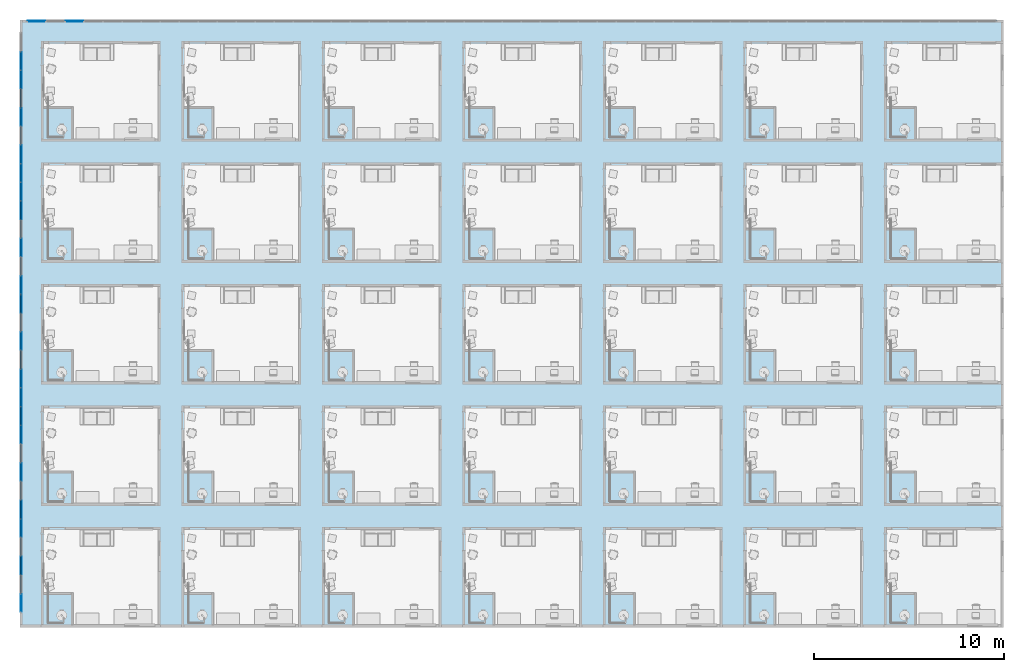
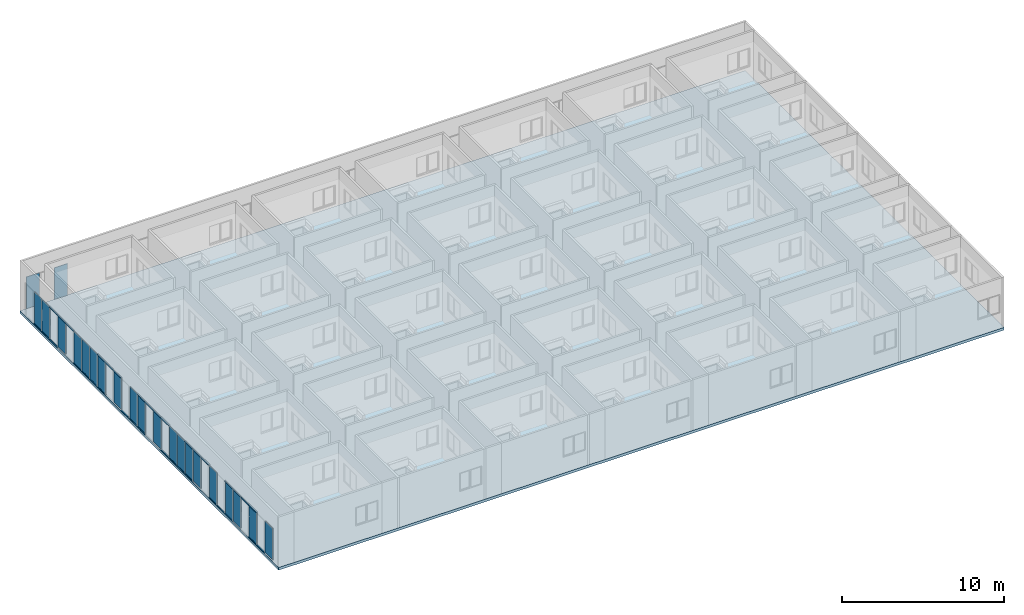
# One storey, part 5 of 72: 36 members, 22 plates, 1 slab, 2 elements without a shape of their own.
"""IFC4 building model written with IfcOpenShell, lengths in centimetres."""

from ifc_helpers import new_model, entity, si_unit, converted_unit, derived_unit, direction, frame, origin, place, context, subcontext, project, spatial, indexed_curve, outline, extrude, source, transform, mapped, material, type_object, type_shapes, element, aggregate, save


model = new_model("IFC4")

# Units and contexts
model_context = context("Model", 3, precision=0.001, world=origin(), true_north=direction((6.123233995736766e-17, 1.0)))
body_context = subcontext(model_context, "Body", "Model", "MODEL_VIEW")
ifc_project = project(units=[si_unit("LENGTHUNIT", "METRE", prefix="CENTI"), si_unit("AREAUNIT", "SQUARE_METRE"), si_unit("VOLUMEUNIT", "CUBIC_METRE"), derived_unit("THERMALTRANSMITTANCEUNIT", [(si_unit("MASSUNIT", "GRAM", prefix="KILO"), 1), (si_unit("THERMODYNAMICTEMPERATUREUNIT", "KELVIN"), -1), (si_unit("TIMEUNIT", "SECOND"), -3)]), converted_unit("PLANEANGLEUNIT", "DEGREE", entity("IfcPlaneAngleMeasure", 0.017453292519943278), si_unit("PLANEANGLEUNIT", "RADIAN"), dimensions=[0, 0, 0, 0, 0, 0, 0]), derived_unit("MASSDENSITYUNIT", [(si_unit("MASSUNIT", "GRAM", prefix="KILO"), 1), (si_unit("LENGTHUNIT", "METRE"), -3)]), derived_unit("VAPORPERMEABILITYUNIT", [(si_unit("LENGTHUNIT", "METRE"), -1), (si_unit("TIMEUNIT", "SECOND"), 1)]), derived_unit("USERDEFINED", [(si_unit("MASSUNIT", "GRAM", prefix="KILO"), 1), (si_unit("TIMEUNIT", "SECOND"), -3), (si_unit("LENGTHUNIT", "METRE"), 3), (si_unit("ELECTRICCURRENTUNIT", "AMPERE"), -2)]), derived_unit("SPECIFICHEATCAPACITYUNIT", [(si_unit("THERMODYNAMICTEMPERATUREUNIT", "KELVIN"), -1), (si_unit("LENGTHUNIT", "METRE"), 2), (si_unit("TIMEUNIT", "SECOND"), -2)]), derived_unit("THERMALCONDUCTANCEUNIT", [(si_unit("MASSUNIT", "GRAM", prefix="KILO"), 1), (si_unit("THERMODYNAMICTEMPERATUREUNIT", "KELVIN"), -1), (si_unit("TIMEUNIT", "SECOND"), -3), (si_unit("LENGTHUNIT", "METRE"), 1)]), si_unit("PRESSUREUNIT", "PASCAL"), derived_unit("MODULUSOFELASTICITYUNIT", [(si_unit("MASSUNIT", "GRAM", prefix="KILO"), 1), (si_unit("LENGTHUNIT", "METRE"), -1), (si_unit("TIMEUNIT", "SECOND"), -2)]), derived_unit("THERMALEXPANSIONCOEFFICIENTUNIT", [(si_unit("THERMODYNAMICTEMPERATUREUNIT", "KELVIN"), -1)])], contexts=[model_context])

# Site, building, storey
site_placement = place(None, origin())
site = spatial("IfcSite", under=ifc_project, at=site_placement, Name="Default", CompositionType="ELEMENT")
building_placement = place(site_placement, origin())
building = spatial("IfcBuilding", under=site, at=building_placement, Name="IDS Escape Game Building", CompositionType="ELEMENT")
storey_placement = place(building_placement, frame((0.0, 0.0, 800.0)))
storey = spatial("IfcBuildingStorey", under=building, at=storey_placement, Name="02_Second Floor", CompositionType="ELEMENT", Elevation=800.0)

# Curtain wall, members
curtain_wall_type = type_object("IfcCurtainWallType", Name="Curtain Wall:ARC_31.3_CWA_LIB_bandraam vast 100cm - profiel 60x60_gen_BERSnl", PredefinedType="NOTDEFINED")
curtain_wall_1_placement = place(storey_placement, frame((0.0, 0.0, -800.0)))
curtain_wall_1 = element("IfcCurtainWall", 1, at=curtain_wall_1_placement, inside=storey, type_object=curtain_wall_type, Name="Curtain Wall:ARC_31.3_CWA_LIB_bandraam vast 100cm - profiel 60x60_gen_BERSnl", ObjectType="Curtain Wall:ARC_31.3_CWA_LIB_bandraam vast 100cm - profiel 60x60_gen_BERSnl", PredefinedType="NOTDEFINED")
ifc_material_1 = material(Name="<Unnamed>")
member_type_1 = type_object("IfcMemberType", Name="Rectangular Mullion:30-_Stijl_Rechthoek_Midden_B60xD60", PredefinedType="MULLION", material=ifc_material_1)
shared_shape_1 = source(origin(), body_context, "Body", "SweptSolid", [
    extrude(outline(indexed_curve([(-3.0, -3.0), (3.0, -3.0), (3.0, 3.0), (-3.0, 3.0), (-3.0, -3.0)], self_intersect=False)), frame((-3.0, 3.0, -98.1935483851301), z_axis=(0.0, 0.0, 1.0), x_axis=(-1.0, 0.0, 0.0)), (0.0, 0.0, 1.0), 98.1935483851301),
])
type_shapes(member_type_1, [shared_shape_1])
member_1_placement = place(curtain_wall_1_placement, frame((-110.0, 2729.2258064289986, 1050.0), z_axis=(0.0, -1.0, 0.0), x_axis=(0.0, 0.0, 1.0)))
member_1 = element("IfcMember", 2, at=member_1_placement, type_object=member_type_1, material=ifc_material_1, Name="Rectangular Mullion:30-_Stijl_Rechthoek_Midden_B60xD60", ObjectType="Rectangular Mullion:30-_Stijl_Rechthoek_Midden_B60xD60", PredefinedType="MULLION", context=body_context, shape_type="MappedRepresentation", body=[
    mapped(shared_shape_1, transform((0.0, 0.0, 0.0), scale=1.0)),
])
member_2_placement = place(curtain_wall_1_placement, frame((-110.0, 2631.0322580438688, 1050.0), z_axis=(0.0, -1.0, 0.0), x_axis=(0.0, 0.0, 1.0)))
member_2 = element("IfcMember", 3, at=member_2_placement, type_object=member_type_1, material=ifc_material_1, Name="Rectangular Mullion:30-_Stijl_Rechthoek_Midden_B60xD60", ObjectType="Rectangular Mullion:30-_Stijl_Rechthoek_Midden_B60xD60", PredefinedType="MULLION", context=body_context, shape_type="MappedRepresentation", body=[
    mapped(shared_shape_1, transform((0.0, 0.0, 0.0), scale=1.0)),
])
member_3_placement = place(curtain_wall_1_placement, frame((-110.0, 2532.8387096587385, 1050.0), z_axis=(0.0, -1.0, 0.0), x_axis=(0.0, 0.0, 1.0)))
member_3 = element("IfcMember", 4, at=member_3_placement, type_object=member_type_1, material=ifc_material_1, Name="Rectangular Mullion:30-_Stijl_Rechthoek_Midden_B60xD60", ObjectType="Rectangular Mullion:30-_Stijl_Rechthoek_Midden_B60xD60", PredefinedType="MULLION", context=body_context, shape_type="MappedRepresentation", body=[
    mapped(shared_shape_1, transform((0.0, 0.0, 0.0), scale=1.0)),
])
member_4_placement = place(curtain_wall_1_placement, frame((-110.0, 2140.0645161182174, 1050.0), z_axis=(0.0, -1.0, 0.0), x_axis=(0.0, 0.0, 1.0)))
member_4 = element("IfcMember", 5, at=member_4_placement, type_object=member_type_1, material=ifc_material_1, Name="Rectangular Mullion:30-_Stijl_Rechthoek_Midden_B60xD60", ObjectType="Rectangular Mullion:30-_Stijl_Rechthoek_Midden_B60xD60", PredefinedType="MULLION", context=body_context, shape_type="MappedRepresentation", body=[
    mapped(shared_shape_1, transform((0.0, 0.0, 0.0), scale=1.0)),
])
member_5_placement = place(curtain_wall_1_placement, frame((-110.0, 2041.870967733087, 1050.0), z_axis=(0.0, -1.0, 0.0), x_axis=(0.0, 0.0, 1.0)))
member_5 = element("IfcMember", 6, at=member_5_placement, type_object=member_type_1, material=ifc_material_1, Name="Rectangular Mullion:30-_Stijl_Rechthoek_Midden_B60xD60", ObjectType="Rectangular Mullion:30-_Stijl_Rechthoek_Midden_B60xD60", PredefinedType="MULLION", context=body_context, shape_type="MappedRepresentation", body=[
    mapped(shared_shape_1, transform((0.0, 0.0, 0.0), scale=1.0)),
])
member_6_placement = place(curtain_wall_1_placement, frame((-110.0, 1943.6774193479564, 1050.0), z_axis=(0.0, -1.0, 0.0), x_axis=(0.0, 0.0, 1.0)))
member_6 = element("IfcMember", 7, at=member_6_placement, type_object=member_type_1, material=ifc_material_1, Name="Rectangular Mullion:30-_Stijl_Rechthoek_Midden_B60xD60", ObjectType="Rectangular Mullion:30-_Stijl_Rechthoek_Midden_B60xD60", PredefinedType="MULLION", context=body_context, shape_type="MappedRepresentation", body=[
    mapped(shared_shape_1, transform((0.0, 0.0, 0.0), scale=1.0)),
])
member_7_placement = place(curtain_wall_1_placement, frame((-110.0, 1649.0967741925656, 1050.0), z_axis=(0.0, -1.0, 0.0), x_axis=(0.0, 0.0, 1.0)))
member_7 = element("IfcMember", 8, at=member_7_placement, type_object=member_type_1, material=ifc_material_1, Name="Rectangular Mullion:30-_Stijl_Rechthoek_Midden_B60xD60", ObjectType="Rectangular Mullion:30-_Stijl_Rechthoek_Midden_B60xD60", PredefinedType="MULLION", context=body_context, shape_type="MappedRepresentation", body=[
    mapped(shared_shape_1, transform((0.0, 0.0, 0.0), scale=1.0)),
])
member_8_placement = place(curtain_wall_1_placement, frame((-110.0, 1550.903225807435, 1050.0), z_axis=(0.0, -1.0, 0.0), x_axis=(0.0, 0.0, 1.0)))
member_8 = element("IfcMember", 9, at=member_8_placement, type_object=member_type_1, material=ifc_material_1, Name="Rectangular Mullion:30-_Stijl_Rechthoek_Midden_B60xD60", ObjectType="Rectangular Mullion:30-_Stijl_Rechthoek_Midden_B60xD60", PredefinedType="MULLION", context=body_context, shape_type="MappedRepresentation", body=[
    mapped(shared_shape_1, transform((0.0, 0.0, 0.0), scale=1.0)),
])
member_9_placement = place(curtain_wall_1_placement, frame((-110.0, 1452.7096774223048, 1050.0), z_axis=(0.0, -1.0, 0.0), x_axis=(0.0, 0.0, 1.0)))
member_9 = element("IfcMember", 10, at=member_9_placement, type_object=member_type_1, material=ifc_material_1, Name="Rectangular Mullion:30-_Stijl_Rechthoek_Midden_B60xD60", ObjectType="Rectangular Mullion:30-_Stijl_Rechthoek_Midden_B60xD60", PredefinedType="MULLION", context=body_context, shape_type="MappedRepresentation", body=[
    mapped(shared_shape_1, transform((0.0, 0.0, 0.0), scale=1.0)),
])
member_10_placement = place(curtain_wall_1_placement, frame((-110.0, 1354.5161290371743, 1050.0), z_axis=(0.0, -1.0, 0.0), x_axis=(0.0, 0.0, 1.0)))
member_10 = element("IfcMember", 11, at=member_10_placement, type_object=member_type_1, material=ifc_material_1, Name="Rectangular Mullion:30-_Stijl_Rechthoek_Midden_B60xD60", ObjectType="Rectangular Mullion:30-_Stijl_Rechthoek_Midden_B60xD60", PredefinedType="MULLION", context=body_context, shape_type="MappedRepresentation", body=[
    mapped(shared_shape_1, transform((0.0, 0.0, 0.0), scale=1.0)),
])
member_11_placement = place(curtain_wall_1_placement, frame((-110.0, 1059.9354838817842, 1050.0), z_axis=(0.0, -1.0, 0.0), x_axis=(0.0, 0.0, 1.0)))
member_11 = element("IfcMember", 12, at=member_11_placement, type_object=member_type_1, material=ifc_material_1, Name="Rectangular Mullion:30-_Stijl_Rechthoek_Midden_B60xD60", ObjectType="Rectangular Mullion:30-_Stijl_Rechthoek_Midden_B60xD60", PredefinedType="MULLION", context=body_context, shape_type="MappedRepresentation", body=[
    mapped(shared_shape_1, transform((0.0, 0.0, 0.0), scale=1.0)),
])
member_12_placement = place(curtain_wall_1_placement, frame((-110.0, 961.741935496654, 1050.0), z_axis=(0.0, -1.0, 0.0), x_axis=(0.0, 0.0, 1.0)))
member_12 = element("IfcMember", 13, at=member_12_placement, type_object=member_type_1, material=ifc_material_1, Name="Rectangular Mullion:30-_Stijl_Rechthoek_Midden_B60xD60", ObjectType="Rectangular Mullion:30-_Stijl_Rechthoek_Midden_B60xD60", PredefinedType="MULLION", context=body_context, shape_type="MappedRepresentation", body=[
    mapped(shared_shape_1, transform((0.0, 0.0, 0.0), scale=1.0)),
])
member_13_placement = place(curtain_wall_1_placement, frame((-110.0, 863.5483871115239, 1050.0), z_axis=(0.0, -1.0, 0.0), x_axis=(0.0, 0.0, 1.0)))
member_13 = element("IfcMember", 14, at=member_13_placement, type_object=member_type_1, material=ifc_material_1, Name="Rectangular Mullion:30-_Stijl_Rechthoek_Midden_B60xD60", ObjectType="Rectangular Mullion:30-_Stijl_Rechthoek_Midden_B60xD60", PredefinedType="MULLION", context=body_context, shape_type="MappedRepresentation", body=[
    mapped(shared_shape_1, transform((0.0, 0.0, 0.0), scale=1.0)),
])
member_14_placement = place(curtain_wall_1_placement, frame((-110.0, 568.9677419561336, 1050.0), z_axis=(0.0, -1.0, 0.0), x_axis=(0.0, 0.0, 1.0)))
member_14 = element("IfcMember", 15, at=member_14_placement, type_object=member_type_1, material=ifc_material_1, Name="Rectangular Mullion:30-_Stijl_Rechthoek_Midden_B60xD60", ObjectType="Rectangular Mullion:30-_Stijl_Rechthoek_Midden_B60xD60", PredefinedType="MULLION", context=body_context, shape_type="MappedRepresentation", body=[
    mapped(shared_shape_1, transform((0.0, 0.0, 0.0), scale=1.0)),
])
member_15_placement = place(curtain_wall_1_placement, frame((-110.0, 470.77419357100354, 1050.0), z_axis=(0.0, -1.0, 0.0), x_axis=(0.0, 0.0, 1.0)))
member_15 = element("IfcMember", 16, at=member_15_placement, type_object=member_type_1, material=ifc_material_1, Name="Rectangular Mullion:30-_Stijl_Rechthoek_Midden_B60xD60", ObjectType="Rectangular Mullion:30-_Stijl_Rechthoek_Midden_B60xD60", PredefinedType="MULLION", context=body_context, shape_type="MappedRepresentation", body=[
    mapped(shared_shape_1, transform((0.0, 0.0, 0.0), scale=1.0)),
])
member_16_placement = place(curtain_wall_1_placement, frame((-110.0, 372.58064518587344, 1050.0), z_axis=(0.0, -1.0, 0.0), x_axis=(0.0, 0.0, 1.0)))
member_16 = element("IfcMember", 17, at=member_16_placement, type_object=member_type_1, material=ifc_material_1, Name="Rectangular Mullion:30-_Stijl_Rechthoek_Midden_B60xD60", ObjectType="Rectangular Mullion:30-_Stijl_Rechthoek_Midden_B60xD60", PredefinedType="MULLION", context=body_context, shape_type="MappedRepresentation", body=[
    mapped(shared_shape_1, transform((0.0, 0.0, 0.0), scale=1.0)),
])
member_17_placement = place(curtain_wall_1_placement, frame((-110.0, 274.38709680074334, 1050.0), z_axis=(0.0, -1.0, 0.0), x_axis=(0.0, 0.0, 1.0)))
member_17 = element("IfcMember", 18, at=member_17_placement, type_object=member_type_1, material=ifc_material_1, Name="Rectangular Mullion:30-_Stijl_Rechthoek_Midden_B60xD60", ObjectType="Rectangular Mullion:30-_Stijl_Rechthoek_Midden_B60xD60", PredefinedType="MULLION", context=body_context, shape_type="MappedRepresentation", body=[
    mapped(shared_shape_1, transform((0.0, 0.0, 0.0), scale=1.0)),
])
member_type_2 = type_object("IfcMemberType", Name="Rectangular Mullion:30-_Stijl_Rechthoek_Midden_B60xD60", PredefinedType="MULLION", material=ifc_material_1)
shared_shape_2 = source(origin(), body_context, "Body", "SweptSolid", [
    extrude(outline(indexed_curve([(-3.0, -3.0), (3.0, -3.0), (3.0, 3.0), (-3.0, 3.0), (-3.0, -3.0)], self_intersect=False)), frame((-3.0, 3.0, -98.1935483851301), z_axis=(0.0, 0.0, 1.0), x_axis=(-1.0, 0.0, 0.0)), (0.0, 0.0, 1.0), 98.1935483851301),
])
type_shapes(member_type_2, [shared_shape_2])
member_18_placement = place(curtain_wall_1_placement, frame((-110.0, 3023.80645158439, 800.0), z_axis=(0.0, 1.0, 0.0), x_axis=(0.0, 0.0, -1.0)))
member_18 = element("IfcMember", 19, at=member_18_placement, type_object=member_type_2, material=ifc_material_1, Name="Rectangular Mullion:30-_Stijl_Rechthoek_Midden_B60xD60", ObjectType="Rectangular Mullion:30-_Stijl_Rechthoek_Midden_B60xD60", PredefinedType="MULLION", context=body_context, shape_type="MappedRepresentation", body=[
    mapped(shared_shape_2, transform((0.0, 0.0, 0.0), scale=1.0)),
])
member_19_placement = place(curtain_wall_1_placement, frame((-110.0, 2925.61290319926, 800.0), z_axis=(0.0, 1.0, 0.0), x_axis=(0.0, 0.0, -1.0)))
member_19 = element("IfcMember", 20, at=member_19_placement, type_object=member_type_2, material=ifc_material_1, Name="Rectangular Mullion:30-_Stijl_Rechthoek_Midden_B60xD60", ObjectType="Rectangular Mullion:30-_Stijl_Rechthoek_Midden_B60xD60", PredefinedType="MULLION", context=body_context, shape_type="MappedRepresentation", body=[
    mapped(shared_shape_2, transform((0.0, 0.0, 0.0), scale=1.0)),
])
member_20_placement = place(curtain_wall_1_placement, frame((-110.0, 2827.4193548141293, 800.0), z_axis=(0.0, 1.0, 0.0), x_axis=(0.0, 0.0, -1.0)))
member_20 = element("IfcMember", 21, at=member_20_placement, type_object=member_type_2, material=ifc_material_1, Name="Rectangular Mullion:30-_Stijl_Rechthoek_Midden_B60xD60", ObjectType="Rectangular Mullion:30-_Stijl_Rechthoek_Midden_B60xD60", PredefinedType="MULLION", context=body_context, shape_type="MappedRepresentation", body=[
    mapped(shared_shape_2, transform((0.0, 0.0, 0.0), scale=1.0)),
])
member_21_placement = place(curtain_wall_1_placement, frame((-110.0, 2532.8387096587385, 800.0), z_axis=(0.0, 1.0, 0.0), x_axis=(0.0, 0.0, -1.0)))
member_21 = element("IfcMember", 22, at=member_21_placement, type_object=member_type_2, material=ifc_material_1, Name="Rectangular Mullion:30-_Stijl_Rechthoek_Midden_B60xD60", ObjectType="Rectangular Mullion:30-_Stijl_Rechthoek_Midden_B60xD60", PredefinedType="MULLION", context=body_context, shape_type="MappedRepresentation", body=[
    mapped(shared_shape_2, transform((0.0, 0.0, 0.0), scale=1.0)),
])
member_22_placement = place(curtain_wall_1_placement, frame((-110.0, 2434.645161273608, 800.0), z_axis=(0.0, 1.0, 0.0), x_axis=(0.0, 0.0, -1.0)))
member_22 = element("IfcMember", 23, at=member_22_placement, type_object=member_type_2, material=ifc_material_1, Name="Rectangular Mullion:30-_Stijl_Rechthoek_Midden_B60xD60", ObjectType="Rectangular Mullion:30-_Stijl_Rechthoek_Midden_B60xD60", PredefinedType="MULLION", context=body_context, shape_type="MappedRepresentation", body=[
    mapped(shared_shape_2, transform((0.0, 0.0, 0.0), scale=1.0)),
])
member_23_placement = place(curtain_wall_1_placement, frame((-110.0, 2336.4516128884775, 800.0), z_axis=(0.0, 1.0, 0.0), x_axis=(0.0, 0.0, -1.0)))
member_23 = element("IfcMember", 24, at=member_23_placement, type_object=member_type_2, material=ifc_material_1, Name="Rectangular Mullion:30-_Stijl_Rechthoek_Midden_B60xD60", ObjectType="Rectangular Mullion:30-_Stijl_Rechthoek_Midden_B60xD60", PredefinedType="MULLION", context=body_context, shape_type="MappedRepresentation", body=[
    mapped(shared_shape_2, transform((0.0, 0.0, 0.0), scale=1.0)),
])
member_24_placement = place(curtain_wall_1_placement, frame((-110.0, 2238.258064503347, 800.0), z_axis=(0.0, 1.0, 0.0), x_axis=(0.0, 0.0, -1.0)))
member_24 = element("IfcMember", 25, at=member_24_placement, type_object=member_type_2, material=ifc_material_1, Name="Rectangular Mullion:30-_Stijl_Rechthoek_Midden_B60xD60", ObjectType="Rectangular Mullion:30-_Stijl_Rechthoek_Midden_B60xD60", PredefinedType="MULLION", context=body_context, shape_type="MappedRepresentation", body=[
    mapped(shared_shape_2, transform((0.0, 0.0, 0.0), scale=1.0)),
])
member_25_placement = place(curtain_wall_1_placement, frame((-110.0, 1943.6774193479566, 800.0), z_axis=(0.0, 1.0, 0.0), x_axis=(0.0, 0.0, -1.0)))
member_25 = element("IfcMember", 26, at=member_25_placement, type_object=member_type_2, material=ifc_material_1, Name="Rectangular Mullion:30-_Stijl_Rechthoek_Midden_B60xD60", ObjectType="Rectangular Mullion:30-_Stijl_Rechthoek_Midden_B60xD60", PredefinedType="MULLION", context=body_context, shape_type="MappedRepresentation", body=[
    mapped(shared_shape_2, transform((0.0, 0.0, 0.0), scale=1.0)),
])
member_26_placement = place(curtain_wall_1_placement, frame((-110.0, 1845.4838709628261, 800.0), z_axis=(0.0, 1.0, 0.0), x_axis=(0.0, 0.0, -1.0)))
member_26 = element("IfcMember", 27, at=member_26_placement, type_object=member_type_2, material=ifc_material_1, Name="Rectangular Mullion:30-_Stijl_Rechthoek_Midden_B60xD60", ObjectType="Rectangular Mullion:30-_Stijl_Rechthoek_Midden_B60xD60", PredefinedType="MULLION", context=body_context, shape_type="MappedRepresentation", body=[
    mapped(shared_shape_2, transform((0.0, 0.0, 0.0), scale=1.0)),
])
member_27_placement = place(curtain_wall_1_placement, frame((-110.0, 1747.2903225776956, 800.0), z_axis=(0.0, 1.0, 0.0), x_axis=(0.0, 0.0, -1.0)))
member_27 = element("IfcMember", 28, at=member_27_placement, type_object=member_type_2, material=ifc_material_1, Name="Rectangular Mullion:30-_Stijl_Rechthoek_Midden_B60xD60", ObjectType="Rectangular Mullion:30-_Stijl_Rechthoek_Midden_B60xD60", PredefinedType="MULLION", context=body_context, shape_type="MappedRepresentation", body=[
    mapped(shared_shape_2, transform((0.0, 0.0, 0.0), scale=1.0)),
])
member_28_placement = place(curtain_wall_1_placement, frame((-110.0, 1452.7096774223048, 800.0), z_axis=(0.0, 1.0, 0.0), x_axis=(0.0, 0.0, -1.0)))
member_28 = element("IfcMember", 29, at=member_28_placement, type_object=member_type_2, material=ifc_material_1, Name="Rectangular Mullion:30-_Stijl_Rechthoek_Midden_B60xD60", ObjectType="Rectangular Mullion:30-_Stijl_Rechthoek_Midden_B60xD60", PredefinedType="MULLION", context=body_context, shape_type="MappedRepresentation", body=[
    mapped(shared_shape_2, transform((0.0, 0.0, 0.0), scale=1.0)),
])
member_29_placement = place(curtain_wall_1_placement, frame((-110.0, 1354.5161290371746, 800.0), z_axis=(0.0, 1.0, 0.0), x_axis=(0.0, 0.0, -1.0)))
member_29 = element("IfcMember", 30, at=member_29_placement, type_object=member_type_2, material=ifc_material_1, Name="Rectangular Mullion:30-_Stijl_Rechthoek_Midden_B60xD60", ObjectType="Rectangular Mullion:30-_Stijl_Rechthoek_Midden_B60xD60", PredefinedType="MULLION", context=body_context, shape_type="MappedRepresentation", body=[
    mapped(shared_shape_2, transform((0.0, 0.0, 0.0), scale=1.0)),
])
member_30_placement = place(curtain_wall_1_placement, frame((-110.0, 1256.3225806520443, 800.0), z_axis=(0.0, 1.0, 0.0), x_axis=(0.0, 0.0, -1.0)))
member_30 = element("IfcMember", 31, at=member_30_placement, type_object=member_type_2, material=ifc_material_1, Name="Rectangular Mullion:30-_Stijl_Rechthoek_Midden_B60xD60", ObjectType="Rectangular Mullion:30-_Stijl_Rechthoek_Midden_B60xD60", PredefinedType="MULLION", context=body_context, shape_type="MappedRepresentation", body=[
    mapped(shared_shape_2, transform((0.0, 0.0, 0.0), scale=1.0)),
])
member_31_placement = place(curtain_wall_1_placement, frame((-110.0, 1158.1290322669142, 800.0), z_axis=(0.0, 1.0, 0.0), x_axis=(0.0, 0.0, -1.0)))
member_31 = element("IfcMember", 32, at=member_31_placement, type_object=member_type_2, material=ifc_material_1, Name="Rectangular Mullion:30-_Stijl_Rechthoek_Midden_B60xD60", ObjectType="Rectangular Mullion:30-_Stijl_Rechthoek_Midden_B60xD60", PredefinedType="MULLION", context=body_context, shape_type="MappedRepresentation", body=[
    mapped(shared_shape_2, transform((0.0, 0.0, 0.0), scale=1.0)),
])
member_32_placement = place(curtain_wall_1_placement, frame((-110.0, 863.5483871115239, 800.0), z_axis=(0.0, 1.0, 0.0), x_axis=(0.0, 0.0, -1.0)))
member_32 = element("IfcMember", 33, at=member_32_placement, type_object=member_type_2, material=ifc_material_1, Name="Rectangular Mullion:30-_Stijl_Rechthoek_Midden_B60xD60", ObjectType="Rectangular Mullion:30-_Stijl_Rechthoek_Midden_B60xD60", PredefinedType="MULLION", context=body_context, shape_type="MappedRepresentation", body=[
    mapped(shared_shape_2, transform((0.0, 0.0, 0.0), scale=1.0)),
])
member_33_placement = place(curtain_wall_1_placement, frame((-110.0, 765.3548387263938, 800.0), z_axis=(0.0, 1.0, 0.0), x_axis=(0.0, 0.0, -1.0)))
member_33 = element("IfcMember", 34, at=member_33_placement, type_object=member_type_2, material=ifc_material_1, Name="Rectangular Mullion:30-_Stijl_Rechthoek_Midden_B60xD60", ObjectType="Rectangular Mullion:30-_Stijl_Rechthoek_Midden_B60xD60", PredefinedType="MULLION", context=body_context, shape_type="MappedRepresentation", body=[
    mapped(shared_shape_2, transform((0.0, 0.0, 0.0), scale=1.0)),
])
member_34_placement = place(curtain_wall_1_placement, frame((-110.0, 667.1612903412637, 800.0), z_axis=(0.0, 1.0, 0.0), x_axis=(0.0, 0.0, -1.0)))
member_34 = element("IfcMember", 35, at=member_34_placement, type_object=member_type_2, material=ifc_material_1, Name="Rectangular Mullion:30-_Stijl_Rechthoek_Midden_B60xD60", ObjectType="Rectangular Mullion:30-_Stijl_Rechthoek_Midden_B60xD60", PredefinedType="MULLION", context=body_context, shape_type="MappedRepresentation", body=[
    mapped(shared_shape_2, transform((0.0, 0.0, 0.0), scale=1.0)),
])
member_35_placement = place(curtain_wall_1_placement, frame((-110.0, 372.5806451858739, 800.0), z_axis=(0.0, 1.0, 0.0), x_axis=(0.0, 0.0, -1.0)))
member_35 = element("IfcMember", 36, at=member_35_placement, type_object=member_type_2, material=ifc_material_1, Name="Rectangular Mullion:30-_Stijl_Rechthoek_Midden_B60xD60", ObjectType="Rectangular Mullion:30-_Stijl_Rechthoek_Midden_B60xD60", PredefinedType="MULLION", context=body_context, shape_type="MappedRepresentation", body=[
    mapped(shared_shape_2, transform((0.0, 0.0, 0.0), scale=1.0)),
])
member_36_placement = place(curtain_wall_1_placement, frame((-110.0, 274.38709680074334, 800.0), z_axis=(0.0, 1.0, 0.0), x_axis=(0.0, 0.0, -1.0)))
member_36 = element("IfcMember", 37, at=member_36_placement, type_object=member_type_2, material=ifc_material_1, Name="Rectangular Mullion:30-_Stijl_Rechthoek_Midden_B60xD60", ObjectType="Rectangular Mullion:30-_Stijl_Rechthoek_Midden_B60xD60", PredefinedType="MULLION", context=body_context, shape_type="MappedRepresentation", body=[
    mapped(shared_shape_2, transform((0.0, 0.0, 0.0), scale=1.0)),
])

# Slab
ifc_material_2 = material(Name="ARC_FME.f2_Ef2-Cast-In-Place Concrete_C30/37_gen_BERSnl", Category="f - niet-gebakken kunststeen")
slab_type = type_object("IfcSlabType", Name="Floor:ARC_13_FL_SB_ConcreteCIP-20cm_gen_BERSnl", PredefinedType="FLOOR", material=ifc_material_2)
slab_placement = place(storey_placement, origin())
element("IfcSlab", 38, at=slab_placement, inside=storey, type_object=slab_type, material=ifc_material_2, Name="Floor:ARC_13_FL_SB_ConcreteCIP-20cm_gen_BERSnl", ObjectType="Floor:ARC_13_FL_SB_ConcreteCIP-20cm_gen_BERSnl", PredefinedType="FLOOR", context=body_context, shape_type="SweptSolid", body=[
    extrude(outline(indexed_curve([(-1595.0000000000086, -2582.9999999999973), (1595.0000000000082, -2582.9999999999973), (1595.0000000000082, 2582.9999999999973), (-1595.0000000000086, 2582.9999999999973), (-1595.0000000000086, -2582.9999999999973)], self_intersect=False)), frame((2466.0, 1594.0, 0.0), z_axis=(0.0, 0.0, -1.0), x_axis=(0.0, 1.0, 0.0)), (0.0, 0.0, 1.0), 20.0),
])

# Curtain wall, plates
curtain_wall_2_placement = place(storey_placement, frame((0.0, 0.0, -800.0)))
curtain_wall_2 = element("IfcCurtainWall", 39, at=curtain_wall_2_placement, inside=storey, type_object=curtain_wall_type, Name="Curtain Wall:ARC_31.3_CWA_LIB_bandraam vast 100cm - profiel 60x60_gen_BERSnl", ObjectType="Curtain Wall:ARC_31.3_CWA_LIB_bandraam vast 100cm - profiel 60x60_gen_BERSnl", PredefinedType="NOTDEFINED")
ifc_material_3 = material(Name="ARC_FME.o1_glass_00_gen_BERSnl", Category="o - glas")
plate_type_1 = type_object("IfcPlateType", Name="System Panel:Glazed", PredefinedType="CURTAIN_PANEL", material=ifc_material_3)
shared_shape_3 = source(origin(), body_context, "Body", "SweptSolid", [
    extrude(outline(indexed_curve([(-2.5, -46.92156864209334), (2.5, -46.92156864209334), (2.5, 46.92156864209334), (-2.5, 46.92156864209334), (-2.5, -46.92156864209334)], self_intersect=False)), frame((0.0, 0.0, 0.0), z_axis=(0.0, 0.0, 1.0), x_axis=(0.0, 1.0, 0.0)), (0.0, 0.0, 1.0), 238.00000000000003),
])
type_shapes(plate_type_1, [shared_shape_3])
plate_1_placement = place(curtain_wall_2_placement, frame((-30.078431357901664, 3182.0, 806.0)))
plate_1 = element("IfcPlate", 40, at=plate_1_placement, type_object=plate_type_1, material=ifc_material_3, Name="System Panel:Glazed", ObjectType="System Panel:Glazed", PredefinedType="CURTAIN_PANEL", context=body_context, shape_type="MappedRepresentation", body=[
    mapped(shared_shape_3, transform((0.0, 0.0, 0.0), scale=1.0)),
])
plate_2_placement = place(curtain_wall_2_placement, frame((169.60784316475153, 3182.0, 806.0)))
plate_2 = element("IfcPlate", 41, at=plate_2_placement, type_object=plate_type_1, material=ifc_material_3, Name="System Panel:Glazed", ObjectType="System Panel:Glazed", PredefinedType="CURTAIN_PANEL", context=body_context, shape_type="MappedRepresentation", body=[
    mapped(shared_shape_3, transform((0.0, 0.0, 0.0), scale=1.0)),
])
aggregate(curtain_wall_2, [plate_1, plate_2])

# Plate
plate_type_2 = type_object("IfcPlateType", Name="System Panel:Glazed", PredefinedType="CURTAIN_PANEL", material=ifc_material_3)
shared_shape_4 = source(origin(), body_context, "Body", "SweptSolid", [
    extrude(outline(indexed_curve([(-2.5, -46.09677420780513), (2.5, -46.09677420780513), (2.5, 46.09677420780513), (-2.5, 46.09677420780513), (-2.5, -46.09677420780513)], self_intersect=False)), frame((0.0, 0.0, 0.0), z_axis=(0.0, 0.0, 1.0), x_axis=(0.0, 1.0, 0.0)), (0.0, 0.0, 1.0), 238.00000000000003),
])
type_shapes(plate_type_2, [shared_shape_4])
plate_3_placement = place(curtain_wall_1_placement, frame((-110.0, 2974.7096773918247, 806.0), z_axis=(0.0, 0.0, 1.0), x_axis=(0.0, -1.0, 0.0)))
plate_3 = element("IfcPlate", 42, at=plate_3_placement, type_object=plate_type_2, material=ifc_material_3, Name="System Panel:Glazed", ObjectType="System Panel:Glazed", PredefinedType="CURTAIN_PANEL", context=body_context, shape_type="MappedRepresentation", body=[
    mapped(shared_shape_4, transform((0.0, 0.0, 0.0), scale=1.0)),
])

plate_4_placement = place(curtain_wall_1_placement, frame((-110.0, 2876.516129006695, 806.0), z_axis=(0.0, 0.0, 1.0), x_axis=(0.0, -1.0, 0.0)))
plate_4 = element("IfcPlate", 43, at=plate_4_placement, type_object=plate_type_2, material=ifc_material_3, Name="System Panel:Glazed", ObjectType="System Panel:Glazed", PredefinedType="CURTAIN_PANEL", context=body_context, shape_type="MappedRepresentation", body=[
    mapped(shared_shape_4, transform((0.0, 0.0, 0.0), scale=1.0)),
])

plate_5_placement = place(curtain_wall_1_placement, frame((-110.0, 2680.129032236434, 806.0), z_axis=(0.0, 0.0, 1.0), x_axis=(0.0, -1.0, 0.0)))
plate_5 = element("IfcPlate", 44, at=plate_5_placement, type_object=plate_type_2, material=ifc_material_3, Name="System Panel:Glazed", ObjectType="System Panel:Glazed", PredefinedType="CURTAIN_PANEL", context=body_context, shape_type="MappedRepresentation", body=[
    mapped(shared_shape_4, transform((0.0, 0.0, 0.0), scale=1.0)),
])

plate_6_placement = place(curtain_wall_1_placement, frame((-110.0, 2483.7419354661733, 806.0), z_axis=(0.0, 0.0, 1.0), x_axis=(0.0, -1.0, 0.0)))
plate_6 = element("IfcPlate", 45, at=plate_6_placement, type_object=plate_type_2, material=ifc_material_3, Name="System Panel:Glazed", ObjectType="System Panel:Glazed", PredefinedType="CURTAIN_PANEL", context=body_context, shape_type="MappedRepresentation", body=[
    mapped(shared_shape_4, transform((0.0, 0.0, 0.0), scale=1.0)),
])

plate_7_placement = place(curtain_wall_1_placement, frame((-110.0, 2385.5483870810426, 806.0), z_axis=(0.0, 0.0, 1.0), x_axis=(0.0, -1.0, 0.0)))
plate_7 = element("IfcPlate", 46, at=plate_7_placement, type_object=plate_type_2, material=ifc_material_3, Name="System Panel:Glazed", ObjectType="System Panel:Glazed", PredefinedType="CURTAIN_PANEL", context=body_context, shape_type="MappedRepresentation", body=[
    mapped(shared_shape_4, transform((0.0, 0.0, 0.0), scale=1.0)),
])

plate_8_placement = place(curtain_wall_1_placement, frame((-110.0, 2287.3548386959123, 806.0), z_axis=(0.0, 0.0, 1.0), x_axis=(0.0, -1.0, 0.0)))
plate_8 = element("IfcPlate", 47, at=plate_8_placement, type_object=plate_type_2, material=ifc_material_3, Name="System Panel:Glazed", ObjectType="System Panel:Glazed", PredefinedType="CURTAIN_PANEL", context=body_context, shape_type="MappedRepresentation", body=[
    mapped(shared_shape_4, transform((0.0, 0.0, 0.0), scale=1.0)),
])

plate_9_placement = place(curtain_wall_1_placement, frame((-110.0, 2189.1612903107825, 806.0), z_axis=(0.0, 0.0, 1.0), x_axis=(0.0, -1.0, 0.0)))
plate_9 = element("IfcPlate", 48, at=plate_9_placement, type_object=plate_type_2, material=ifc_material_3, Name="System Panel:Glazed", ObjectType="System Panel:Glazed", PredefinedType="CURTAIN_PANEL", context=body_context, shape_type="MappedRepresentation", body=[
    mapped(shared_shape_4, transform((0.0, 0.0, 0.0), scale=1.0)),
])

plate_10_placement = place(curtain_wall_1_placement, frame((-110.0, 1992.7741935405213, 806.0), z_axis=(0.0, 0.0, 1.0), x_axis=(0.0, -1.0, 0.0)))
plate_10 = element("IfcPlate", 49, at=plate_10_placement, type_object=plate_type_2, material=ifc_material_3, Name="System Panel:Glazed", ObjectType="System Panel:Glazed", PredefinedType="CURTAIN_PANEL", context=body_context, shape_type="MappedRepresentation", body=[
    mapped(shared_shape_4, transform((0.0, 0.0, 0.0), scale=1.0)),
])

plate_11_placement = place(curtain_wall_1_placement, frame((-110.0, 1796.387096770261, 806.0), z_axis=(0.0, 0.0, 1.0), x_axis=(0.0, -1.0, 0.0)))
plate_11 = element("IfcPlate", 50, at=plate_11_placement, type_object=plate_type_2, material=ifc_material_3, Name="System Panel:Glazed", ObjectType="System Panel:Glazed", PredefinedType="CURTAIN_PANEL", context=body_context, shape_type="MappedRepresentation", body=[
    mapped(shared_shape_4, transform((0.0, 0.0, 0.0), scale=1.0)),
])

plate_12_placement = place(curtain_wall_1_placement, frame((-110.0, 1698.1935483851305, 806.0), z_axis=(0.0, 0.0, 1.0), x_axis=(0.0, -1.0, 0.0)))
plate_12 = element("IfcPlate", 51, at=plate_12_placement, type_object=plate_type_2, material=ifc_material_3, Name="System Panel:Glazed", ObjectType="System Panel:Glazed", PredefinedType="CURTAIN_PANEL", context=body_context, shape_type="MappedRepresentation", body=[
    mapped(shared_shape_4, transform((0.0, 0.0, 0.0), scale=1.0)),
])

plate_13_placement = place(curtain_wall_1_placement, frame((-110.0, 1501.80645161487, 806.0), z_axis=(0.0, 0.0, 1.0), x_axis=(0.0, -1.0, 0.0)))
plate_13 = element("IfcPlate", 52, at=plate_13_placement, type_object=plate_type_2, material=ifc_material_3, Name="System Panel:Glazed", ObjectType="System Panel:Glazed", PredefinedType="CURTAIN_PANEL", context=body_context, shape_type="MappedRepresentation", body=[
    mapped(shared_shape_4, transform((0.0, 0.0, 0.0), scale=1.0)),
])

plate_14_placement = place(curtain_wall_1_placement, frame((-110.0, 1305.4193548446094, 806.0), z_axis=(0.0, 0.0, 1.0), x_axis=(0.0, -1.0, 0.0)))
plate_14 = element("IfcPlate", 53, at=plate_14_placement, type_object=plate_type_2, material=ifc_material_3, Name="System Panel:Glazed", ObjectType="System Panel:Glazed", PredefinedType="CURTAIN_PANEL", context=body_context, shape_type="MappedRepresentation", body=[
    mapped(shared_shape_4, transform((0.0, 0.0, 0.0), scale=1.0)),
])

plate_15_placement = place(curtain_wall_1_placement, frame((-110.0, 1207.2258064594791, 806.0), z_axis=(0.0, 0.0, 1.0), x_axis=(0.0, -1.0, 0.0)))
plate_15 = element("IfcPlate", 54, at=plate_15_placement, type_object=plate_type_2, material=ifc_material_3, Name="System Panel:Glazed", ObjectType="System Panel:Glazed", PredefinedType="CURTAIN_PANEL", context=body_context, shape_type="MappedRepresentation", body=[
    mapped(shared_shape_4, transform((0.0, 0.0, 0.0), scale=1.0)),
])

plate_16_placement = place(curtain_wall_1_placement, frame((-110.0, 1109.032258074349, 806.0), z_axis=(0.0, 0.0, 1.0), x_axis=(0.0, -1.0, 0.0)))
plate_16 = element("IfcPlate", 55, at=plate_16_placement, type_object=plate_type_2, material=ifc_material_3, Name="System Panel:Glazed", ObjectType="System Panel:Glazed", PredefinedType="CURTAIN_PANEL", context=body_context, shape_type="MappedRepresentation", body=[
    mapped(shared_shape_4, transform((0.0, 0.0, 0.0), scale=1.0)),
])

plate_17_placement = place(curtain_wall_1_placement, frame((-110.0, 1010.8387096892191, 806.0), z_axis=(0.0, 0.0, 1.0), x_axis=(0.0, -1.0, 0.0)))
plate_17 = element("IfcPlate", 56, at=plate_17_placement, type_object=plate_type_2, material=ifc_material_3, Name="System Panel:Glazed", ObjectType="System Panel:Glazed", PredefinedType="CURTAIN_PANEL", context=body_context, shape_type="MappedRepresentation", body=[
    mapped(shared_shape_4, transform((0.0, 0.0, 0.0), scale=1.0)),
])

plate_18_placement = place(curtain_wall_1_placement, frame((-110.0, 814.4516129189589, 806.0), z_axis=(0.0, 0.0, 1.0), x_axis=(0.0, -1.0, 0.0)))
plate_18 = element("IfcPlate", 57, at=plate_18_placement, type_object=plate_type_2, material=ifc_material_3, Name="System Panel:Glazed", ObjectType="System Panel:Glazed", PredefinedType="CURTAIN_PANEL", context=body_context, shape_type="MappedRepresentation", body=[
    mapped(shared_shape_4, transform((0.0, 0.0, 0.0), scale=1.0)),
])

plate_19_placement = place(curtain_wall_1_placement, frame((-110.0, 618.0645161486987, 806.0), z_axis=(0.0, 0.0, 1.0), x_axis=(0.0, -1.0, 0.0)))
plate_19 = element("IfcPlate", 58, at=plate_19_placement, type_object=plate_type_2, material=ifc_material_3, Name="System Panel:Glazed", ObjectType="System Panel:Glazed", PredefinedType="CURTAIN_PANEL", context=body_context, shape_type="MappedRepresentation", body=[
    mapped(shared_shape_4, transform((0.0, 0.0, 0.0), scale=1.0)),
])

plate_20_placement = place(curtain_wall_1_placement, frame((-110.0, 519.8709677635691, 806.0), z_axis=(0.0, 0.0, 1.0), x_axis=(0.0, -1.0, 0.0)))
plate_20 = element("IfcPlate", 59, at=plate_20_placement, type_object=plate_type_2, material=ifc_material_3, Name="System Panel:Glazed", ObjectType="System Panel:Glazed", PredefinedType="CURTAIN_PANEL", context=body_context, shape_type="MappedRepresentation", body=[
    mapped(shared_shape_4, transform((0.0, 0.0, 0.0), scale=1.0)),
])

plate_21_placement = place(curtain_wall_1_placement, frame((-110.0, 323.4838709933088, 806.0), z_axis=(0.0, 0.0, 1.0), x_axis=(0.0, -1.0, 0.0)))
plate_21 = element("IfcPlate", 60, at=plate_21_placement, type_object=plate_type_2, material=ifc_material_3, Name="System Panel:Glazed", ObjectType="System Panel:Glazed", PredefinedType="CURTAIN_PANEL", context=body_context, shape_type="MappedRepresentation", body=[
    mapped(shared_shape_4, transform((0.0, 0.0, 0.0), scale=1.0)),
])

plate_22_placement = place(curtain_wall_1_placement, frame((-110.0, 127.09677420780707, 806.0), z_axis=(0.0, 0.0, 1.0), x_axis=(0.0, -1.0, 0.0)))
plate_22 = element("IfcPlate", 61, at=plate_22_placement, type_object=plate_type_2, material=ifc_material_3, Name="System Panel:Glazed", ObjectType="System Panel:Glazed", PredefinedType="CURTAIN_PANEL", context=body_context, shape_type="MappedRepresentation", body=[
    mapped(shared_shape_4, transform((0.0, 0.0, 0.0), scale=1.0)),
])

aggregate(curtain_wall_1, [plate_3, plate_4, plate_5, plate_6, plate_7, plate_8, plate_9, plate_10, plate_11, plate_12, plate_13, plate_14, plate_15, plate_16, plate_17, plate_18, plate_19, plate_20, plate_21, plate_22, member_1, member_2, member_3, member_4, member_5, member_6, member_7, member_8, member_9, member_10, member_11, member_12, member_13, member_14, member_15, member_16, member_17, member_18, member_19, member_20, member_21, member_22, member_23, member_24, member_25, member_26, member_27, member_28, member_29, member_30, member_31, member_32, member_33, member_34, member_35, member_36])

save(model, "model.ifc")
